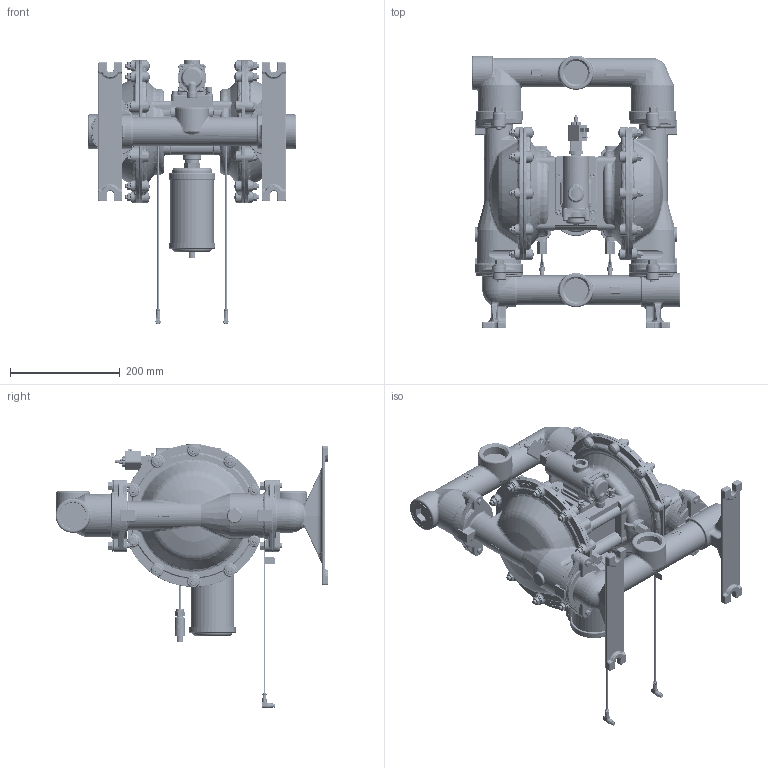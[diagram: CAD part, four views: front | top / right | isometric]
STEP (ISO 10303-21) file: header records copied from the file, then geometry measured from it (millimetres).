
FILE_DESCRIPTION((''),'2;1');
FILE_NAME('PE15S-ASS-STT-AAE_SW0003','2019-05-07T17:43:56',('irgbqd'),(''),'CREO PARAMETRIC BY PTC INC, 2018420','CREO PARAMETRIC BY PTC INC, 2018420','');
FILE_SCHEMA(('CONFIG_CONTROL_DESIGN'));
Length unit declared in the file: millimetre
Products named in the file (1): PE15S-ASS-STT-AAE_SW0003
Bounding box: 381 x 498.07 x 483.08 mm (x, y, z)
Volume: 12444913.6 mm3; surface area: 760522.5 mm2
Topology: 2 solids, 2 shells, 9897 faces, 26175 edges, 16622 vertices
Faces by surface type: plane 5839, cylinder 1486, bspline 1002, torus 778, cone 566, sphere 216, extrusion 10
Entity records: 387552 total; most frequent: CARTESIAN_POINT 149362, ORIENTED_EDGE 52206, DIRECTION 45916, EDGE_CURVE 26103, VECTOR 17550, LINE 17540, VERTEX_POINT 16622, AXIS2_PLACEMENT_3D 14183
